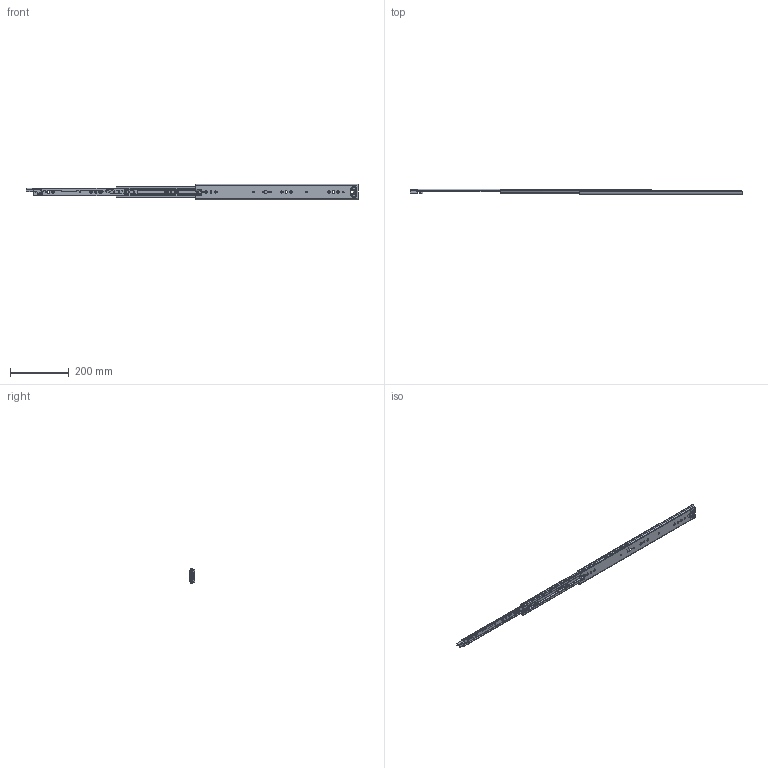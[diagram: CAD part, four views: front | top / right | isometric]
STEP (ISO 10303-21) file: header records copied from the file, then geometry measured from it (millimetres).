
FILE_DESCRIPTION((''),'2;1');
FILE_NAME('1053-3S-22YOU_ASM','2023-04-11T',('jishu015'),(''),'PRO/ENGINEER BY PARAMETRIC TECHNOLOGY CORPORATION, 2010280','PRO/ENGINEER BY PARAMETRIC TECHNOLOGY CORPORATION, 2010280','');
FILE_SCHEMA(('CONFIG_CONTROL_DESIGN'));
Products named in the file (20): 1053-02-18WAIKE12_; 1053WEIJIAO12_; 1053-3S-24WAIKE12__ASM; 1053ZHUTIAO-17521_; 53-5-6GANZHU21_; 1053ZHUTIAO-175MM21__ASM; 1053-02-18ZHONGGUI21_; ZHONGGUIPEIJIAN21_; ZHONGGUISUOKOU21_; 1053-02-18ZHONGGUI21__ASM; 1053XIAOZHUJIA-14GE21_; 1053XIAOZHUJIA-14GE21__ASM; 1053-02-18NEIGUI21_; DAOPIAN21_; PIAN21_; 1053-3SBANJI12321_; JIAO-121_; 50XINSUOKOU2_; 1053-02-18NEIGUI21__ASM; 1053-3S-22YOU_ASM
Assembly tree (64 placements, depth 3):
  1053-3S-22YOU_ASM
    1053-3S-24WAIKE12__ASM
      1053-02-18WAIKE12_
      1053WEIJIAO12_
    1053ZHUTIAO-175MM21__ASM  x2
      1053ZHUTIAO-17521_
      53-5-6GANZHU21_
    1053-02-18ZHONGGUI21__ASM
      1053-02-18ZHONGGUI21_
      ZHONGGUIPEIJIAN21_
      ZHONGGUISUOKOU21_
    1053XIAOZHUJIA-14GE21__ASM
      1053XIAOZHUJIA-14GE21_
      53-5-6GANZHU21_  x36
    1053-02-18NEIGUI21__ASM
      1053-02-18NEIGUI21_
      DAOPIAN21_
      PIAN21_
      1053-3SBANJI12321_
      JIAO-121_
      50XINSUOKOU2_
Bounding box: 1126.92 x 18.7 x 53 mm (x, y, z)
Volume: 209263.7 mm3; surface area: 241455.6 mm2
Topology: 69 solids, 69 shells, 1925 faces, 5531 edges, 3472 vertices
Faces by surface type: cylinder 814, plane 799, sphere 116, bspline 95, cone 62, extrusion 23, torus 16
Entity records: 63855 total; most frequent: CARTESIAN_POINT 16604, ORIENTED_EDGE 10028, DIRECTION 9676, EDGE_CURVE 5014, AXIS2_PLACEMENT_3D 3342, VERTEX_POINT 3242, VECTOR 2992, LINE 2969
